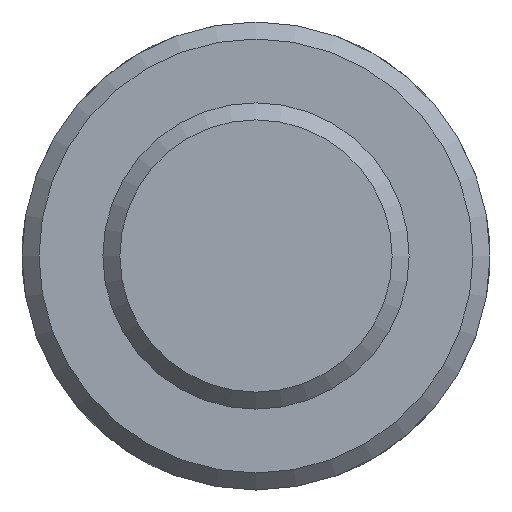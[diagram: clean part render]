
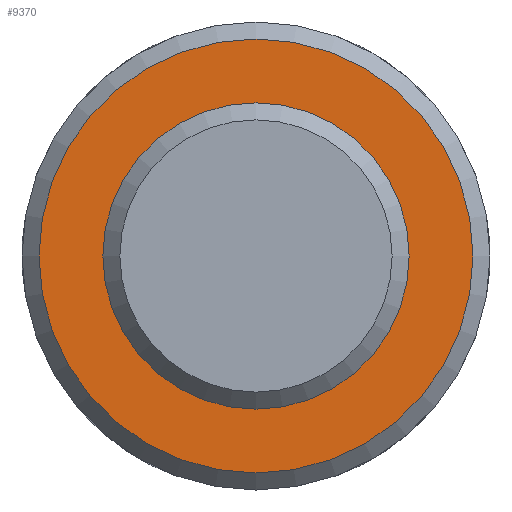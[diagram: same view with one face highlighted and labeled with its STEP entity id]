
A CAD part, front view. The second image highlights one B-rep face of the part: STEP entity #9370.
In plain terms, the highlighted planar face has unit normal (0, -1, 0) as drawn and (0, 1, 0) by its records, which use the part's own axes.
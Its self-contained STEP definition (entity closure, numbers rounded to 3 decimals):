
#73=CIRCLE('',#9700,25.5);
#1476=FACE_OUTER_BOUND('',#2054,.T.);
#2054=EDGE_LOOP('',(#8610));
#4542=VERTEX_POINT('',#17354);
#5903=EDGE_CURVE('',#4542,#4542,#73,.T.);
#8610=ORIENTED_EDGE('',*,*,#5903,.F.);
#8866=PLANE('',#9703);
#9370=ADVANCED_FACE('',(#1476),#8866,.T.);
#9700=AXIS2_PLACEMENT_3D('',#17355,#11005,#11006);
#9703=AXIS2_PLACEMENT_3D('',#17593,#11011,#11012);
#11005=DIRECTION('center_axis',(0.,-1.,0.));
#11006=DIRECTION('ref_axis',(1.,0.,0.));
#11011=DIRECTION('center_axis',(0.,1.,0.));
#11012=DIRECTION('ref_axis',(0.,0.,1.));
#17354=CARTESIAN_POINT('',(-25.5,20.,0.));
#17355=CARTESIAN_POINT('Origin',(0.,20.,0.));
#17593=CARTESIAN_POINT('Origin',(0.,20.,0.));
